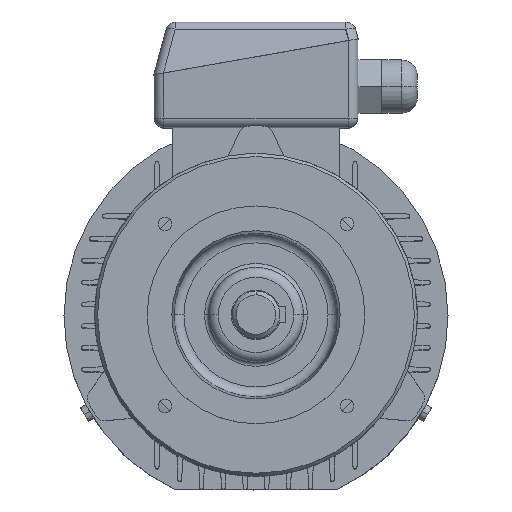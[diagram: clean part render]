
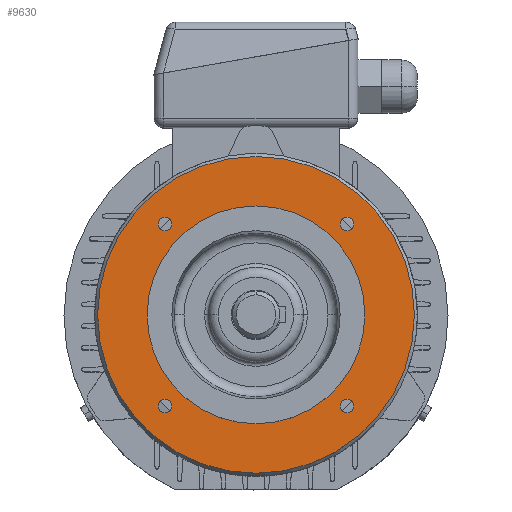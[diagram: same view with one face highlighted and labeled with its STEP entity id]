
A CAD part, top view. The second image highlights one B-rep face of the part: STEP entity #9630.
In plain terms, the highlighted planar face has unit normal (0, 0, 1).
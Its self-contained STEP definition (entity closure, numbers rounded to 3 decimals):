
#2 = EDGE_CURVE ( 'NONE', #15244, #9383, #15756, .T. ) ;
#1193 = CIRCLE ( 'NONE', #1194, 55. ) ;
#1194 = AXIS2_PLACEMENT_3D ( 'NONE', #1195, #1196, #1197 ) ;
#1195 = CARTESIAN_POINT ( 'NONE',  ( 0., 0., 40. ) ) ;
#1196 = DIRECTION ( 'NONE',  ( 0., 0., -1. ) ) ;
#1197 = DIRECTION ( 'NONE',  ( -1., 0., 0. ) ) ;
#18079 = CARTESIAN_POINT ( 'NONE',  ( 49.362, -45.962, 40. ) ) ;
#18098 = VERTEX_POINT ( 'NONE', #11774 ) ;
#1961 = VERTEX_POINT ( 'NONE', #19501 ) ;
#2099 = EDGE_CURVE ( 'NONE', #9383, #15244, #19735, .T. ) ;
#18657 = CARTESIAN_POINT ( 'NONE',  ( -49.362, 45.962, 40. ) ) ;
#2911 = VERTEX_POINT ( 'NONE', #20594 ) ;
#3065 = CARTESIAN_POINT ( 'NONE',  ( -80., 0., 40. ) ) ;
#3108 = EDGE_CURVE ( 'NONE', #3471, #2911, #20950, .T. ) ;
#19501 = CARTESIAN_POINT ( 'NONE',  ( -42.562, 45.962, 40. ) ) ;
#3254 = FACE_BOUND ( 'NONE', #9427, .T. ) ;
#3255 = FACE_OUTER_BOUND ( 'NONE', #7425, .T. ) ;
#3256 = FACE_BOUND ( 'NONE', #5850, .T. ) ;
#3257 = FACE_BOUND ( 'NONE', #15483, .T. ) ;
#3258 = FACE_BOUND ( 'NONE', #13443, .T. ) ;
#3259 = FACE_BOUND ( 'NONE', #11212, .T. ) ;
#3260 = PLANE ( 'NONE',  #3261 ) ;
#3261 = AXIS2_PLACEMENT_3D ( 'NONE', #3267, #3268, #3269 ) ;
#3267 = CARTESIAN_POINT ( 'NONE',  ( -80., 0., 40. ) ) ;
#3268 = DIRECTION ( 'NONE',  ( 0., 0., 1. ) ) ;
#3269 = DIRECTION ( 'NONE',  ( 1., 0., 0. ) ) ;
#19735 = CIRCLE ( 'NONE', #19736, 80. ) ;
#19736 = AXIS2_PLACEMENT_3D ( 'NONE', #19737, #19738, #19739 ) ;
#19737 = CARTESIAN_POINT ( 'NONE',  ( 0., 0., 40. ) ) ;
#19738 = DIRECTION ( 'NONE',  ( 0., 0., -1. ) ) ;
#19739 = DIRECTION ( 'NONE',  ( -1., 0., 0. ) ) ;
#3394 = VERTEX_POINT ( 'NONE', #21244 ) ;
#3471 = VERTEX_POINT ( 'NONE', #21276 ) ;
#3516 = VERTEX_POINT ( 'NONE', #21319 ) ;
#3738 = CIRCLE ( 'NONE', #3739, 3.4 ) ;
#3739 = AXIS2_PLACEMENT_3D ( 'NONE', #3740, #3741, #3742 ) ;
#3740 = CARTESIAN_POINT ( 'NONE',  ( -45.962, 45.962, 40. ) ) ;
#3741 = DIRECTION ( 'NONE',  ( 0., 0., 1. ) ) ;
#3742 = DIRECTION ( 'NONE',  ( 1., 0., 0. ) ) ;
#20141 = CIRCLE ( 'NONE', #20142, 3.4 ) ;
#20142 = AXIS2_PLACEMENT_3D ( 'NONE', #20143, #20144, #20145 ) ;
#20143 = CARTESIAN_POINT ( 'NONE',  ( 45.962, -45.962, 40. ) ) ;
#20144 = DIRECTION ( 'NONE',  ( 0., 0., 1. ) ) ;
#20145 = DIRECTION ( 'NONE',  ( 1., 0., 0. ) ) ;
#4048 = EDGE_CURVE ( 'NONE', #24423, #1961, #22119, .T. ) ;
#20464 = EDGE_CURVE ( 'NONE', #22265, #18098, #13126, .T. ) ;
#4094 = ORIENTED_EDGE ( 'NONE', *, *, #20464, .F. ) ;
#4125 = VERTEX_POINT ( 'NONE', #22235 ) ;
#20594 = CARTESIAN_POINT ( 'NONE',  ( 49.362, 45.962, 40. ) ) ;
#20950 = CIRCLE ( 'NONE', #20951, 3.4 ) ;
#20951 = AXIS2_PLACEMENT_3D ( 'NONE', #20952, #20953, #20960 ) ;
#20952 = CARTESIAN_POINT ( 'NONE',  ( 45.962, 45.962, 40. ) ) ;
#20953 = DIRECTION ( 'NONE',  ( 0., 0., 1. ) ) ;
#20960 = DIRECTION ( 'NONE',  ( 1., 0., 0. ) ) ;
#4740 = EDGE_CURVE ( 'NONE', #18098, #22265, #23283, .T. ) ;
#21244 = CARTESIAN_POINT ( 'NONE',  ( -55., 0., 40. ) ) ;
#21276 = CARTESIAN_POINT ( 'NONE',  ( 42.562, 45.962, 40. ) ) ;
#21319 = CARTESIAN_POINT ( 'NONE',  ( 55., 0., 40. ) ) ;
#5207 = ORIENTED_EDGE ( 'NONE', *, *, #4740, .F. ) ;
#22119 = CIRCLE ( 'NONE', #22120, 3.4 ) ;
#22120 = AXIS2_PLACEMENT_3D ( 'NONE', #22121, #22122, #22123 ) ;
#22121 = CARTESIAN_POINT ( 'NONE',  ( -45.962, 45.962, 40. ) ) ;
#22122 = DIRECTION ( 'NONE',  ( 0., 0., 1. ) ) ;
#22123 = DIRECTION ( 'NONE',  ( 1., 0., 0. ) ) ;
#5850 = EDGE_LOOP ( 'NONE', ( #5207, #4094 ) ) ;
#22235 = CARTESIAN_POINT ( 'NONE',  ( 42.562, -45.962, 40. ) ) ;
#5880 = CIRCLE ( 'NONE', #5881, 3.4 ) ;
#5881 = AXIS2_PLACEMENT_3D ( 'NONE', #5882, #5883, #5884 ) ;
#5882 = CARTESIAN_POINT ( 'NONE',  ( 45.962, 45.962, 40. ) ) ;
#5883 = DIRECTION ( 'NONE',  ( 0., 0., 1. ) ) ;
#5884 = DIRECTION ( 'NONE',  ( 1., 0., 0. ) ) ;
#22265 = VERTEX_POINT ( 'NONE', #14749 ) ;
#6145 = ORIENTED_EDGE ( 'NONE', *, *, #2, .F. ) ;
#6722 = EDGE_CURVE ( 'NONE', #3394, #3516, #25441, .T. ) ;
#6786 = ORIENTED_EDGE ( 'NONE', *, *, #2099, .F. ) ;
#23176 = ORIENTED_EDGE ( 'NONE', *, *, #4048, .F. ) ;
#23283 = CIRCLE ( 'NONE', #23284, 3.4 ) ;
#23284 = AXIS2_PLACEMENT_3D ( 'NONE', #23285, #23288, #23289 ) ;
#23285 = CARTESIAN_POINT ( 'NONE',  ( -45.962, -45.962, 40. ) ) ;
#23288 = DIRECTION ( 'NONE',  ( 0., 0., 1. ) ) ;
#23289 = DIRECTION ( 'NONE',  ( 1., 0., 0. ) ) ;
#7425 = EDGE_LOOP ( 'NONE', ( #6786, #6145 ) ) ;
#7714 = EDGE_CURVE ( 'NONE', #3516, #3394, #1193, .T. ) ;
#24102 = VERTEX_POINT ( 'NONE', #18079 ) ;
#24423 = VERTEX_POINT ( 'NONE', #18657 ) ;
#8184 = ORIENTED_EDGE ( 'NONE', *, *, #7714, .T. ) ;
#8372 = CIRCLE ( 'NONE', #8373, 3.4 ) ;
#8373 = AXIS2_PLACEMENT_3D ( 'NONE', #8374, #8387, #8388 ) ;
#8374 = CARTESIAN_POINT ( 'NONE',  ( 45.962, -45.962, 40. ) ) ;
#8387 = DIRECTION ( 'NONE',  ( 0., 0., 1. ) ) ;
#8388 = DIRECTION ( 'NONE',  ( 1., 0., 0. ) ) ;
#8819 = ORIENTED_EDGE ( 'NONE', *, *, #6722, .T. ) ;
#25246 = EDGE_CURVE ( 'NONE', #4125, #24102, #20141, .T. ) ;
#25441 = CIRCLE ( 'NONE', #25442, 55. ) ;
#25442 = AXIS2_PLACEMENT_3D ( 'NONE', #25443, #25444, #25445 ) ;
#25443 = CARTESIAN_POINT ( 'NONE',  ( 0., 0., 40. ) ) ;
#25444 = DIRECTION ( 'NONE',  ( 0., 0., -1. ) ) ;
#25445 = DIRECTION ( 'NONE',  ( -1., 0., 0. ) ) ;
#9383 = VERTEX_POINT ( 'NONE', #3065 ) ;
#9427 = EDGE_LOOP ( 'NONE', ( #8819, #8184 ) ) ;
#9487 = CARTESIAN_POINT ( 'NONE',  ( 80., 0., 40. ) ) ;
#9630 = ADVANCED_FACE ( 'NONE', ( #3254, #3255, #3256, #3257, #3258, #3259 ), #3260, .T. ) ;
#10106 = EDGE_CURVE ( 'NONE', #1961, #24423, #3738, .T. ) ;
#10571 = ORIENTED_EDGE ( 'NONE', *, *, #10106, .F. ) ;
#11212 = EDGE_LOOP ( 'NONE', ( #10571, #23176 ) ) ;
#11504 = ORIENTED_EDGE ( 'NONE', *, *, #3108, .F. ) ;
#11774 = CARTESIAN_POINT ( 'NONE',  ( -42.562, -45.962, 40. ) ) ;
#12348 = EDGE_CURVE ( 'NONE', #2911, #3471, #5880, .T. ) ;
#12805 = ORIENTED_EDGE ( 'NONE', *, *, #12348, .F. ) ;
#13126 = CIRCLE ( 'NONE', #13127, 3.4 ) ;
#13127 = AXIS2_PLACEMENT_3D ( 'NONE', #13128, #13129, #13130 ) ;
#13128 = CARTESIAN_POINT ( 'NONE',  ( -45.962, -45.962, 40. ) ) ;
#13129 = DIRECTION ( 'NONE',  ( 0., 0., 1. ) ) ;
#13130 = DIRECTION ( 'NONE',  ( 1., 0., 0. ) ) ;
#13443 = EDGE_LOOP ( 'NONE', ( #12805, #11504 ) ) ;
#13739 = ORIENTED_EDGE ( 'NONE', *, *, #25246, .F. ) ;
#14388 = EDGE_CURVE ( 'NONE', #24102, #4125, #8372, .T. ) ;
#14749 = CARTESIAN_POINT ( 'NONE',  ( -49.362, -45.962, 40. ) ) ;
#14839 = ORIENTED_EDGE ( 'NONE', *, *, #14388, .F. ) ;
#15244 = VERTEX_POINT ( 'NONE', #9487 ) ;
#15483 = EDGE_LOOP ( 'NONE', ( #14839, #13739 ) ) ;
#15756 = CIRCLE ( 'NONE', #15757, 80. ) ;
#15757 = AXIS2_PLACEMENT_3D ( 'NONE', #15758, #15759, #15760 ) ;
#15758 = CARTESIAN_POINT ( 'NONE',  ( 0., 0., 40. ) ) ;
#15759 = DIRECTION ( 'NONE',  ( 0., 0., -1. ) ) ;
#15760 = DIRECTION ( 'NONE',  ( -1., 0., 0. ) ) ;
